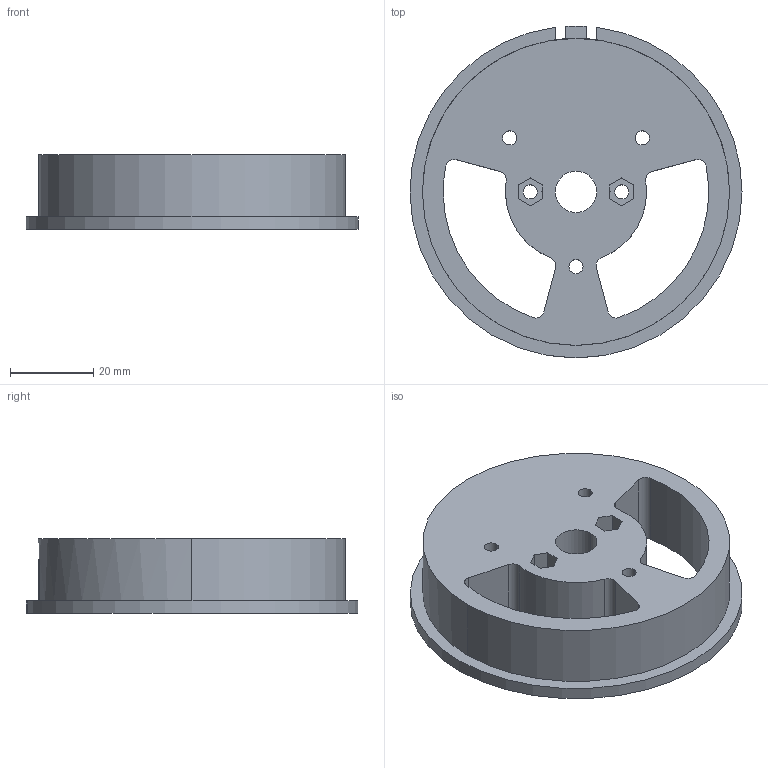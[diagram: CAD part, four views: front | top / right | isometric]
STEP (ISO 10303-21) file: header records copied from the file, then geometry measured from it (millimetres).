
FILE_DESCRIPTION((''),'2;1');
FILE_NAME('ART3PULLEY','2022-08-24T09:25:34',('domen.bizjak'),('Audax d.o.o.'),'CREO PARAMETRIC BY PTC INC, 2021184','CREO PARAMETRIC BY PTC INC, 2021184','');
FILE_SCHEMA(('AP242_MANAGED_MODEL_BASED_3D_ENGINEERING_MIM_LF { 1 0 10303 442 1 1 4 }'));
Length unit declared in the file: millimetre
Products named in the file (1): ART3PULLEY
Bounding box: 80 x 79.99 x 18 mm (x, y, z)
Volume: 52303.1 mm3; surface area: 19168.7 mm2
Topology: 1 solids, 1 shells, 94 faces, 284 edges, 198 vertices
Faces by surface type: plane 54, cylinder 40
Entity records: 4800 total; most frequent: CARTESIAN_POINT 619, DIRECTION 600, ORIENTED_EDGE 562, COLOUR_RGB 319, PRESENTATION_STYLE_ASSIGNMENT 291, STYLED_ITEM 291, CURVE_STYLE 286, EDGE_CURVE 281
